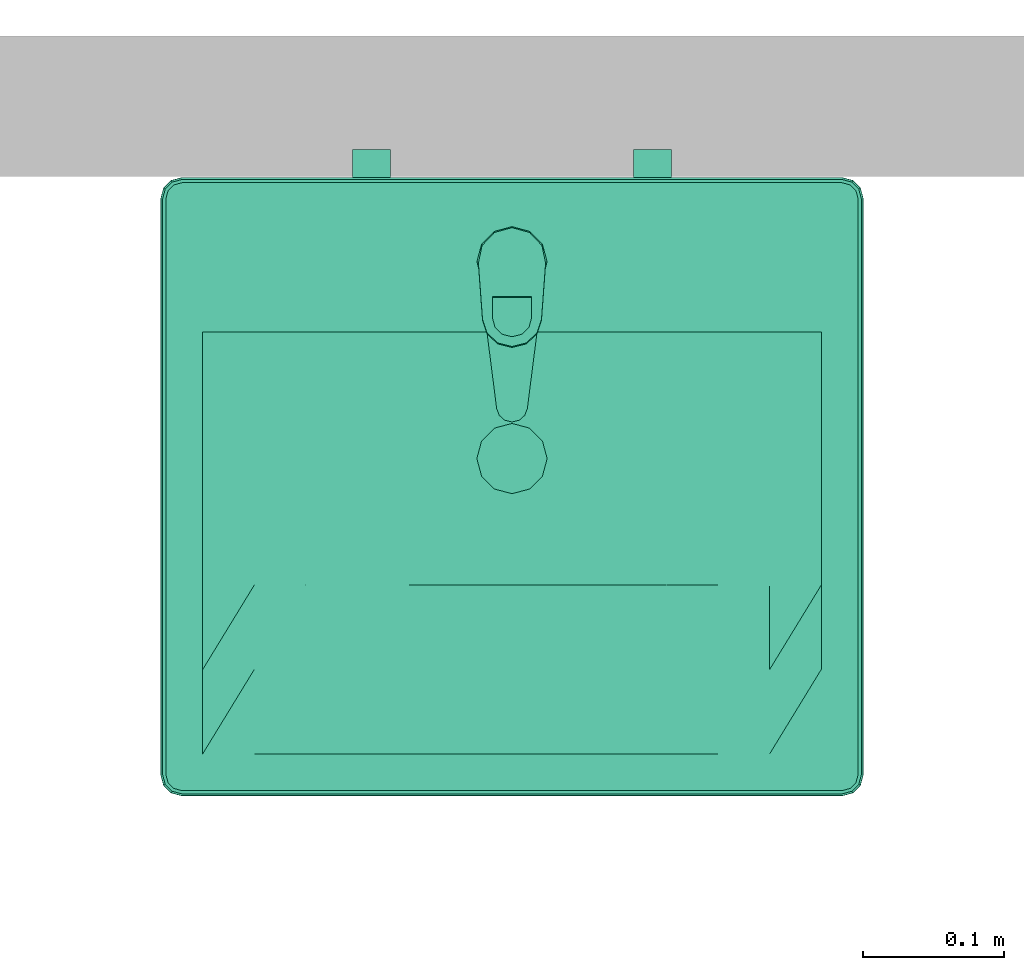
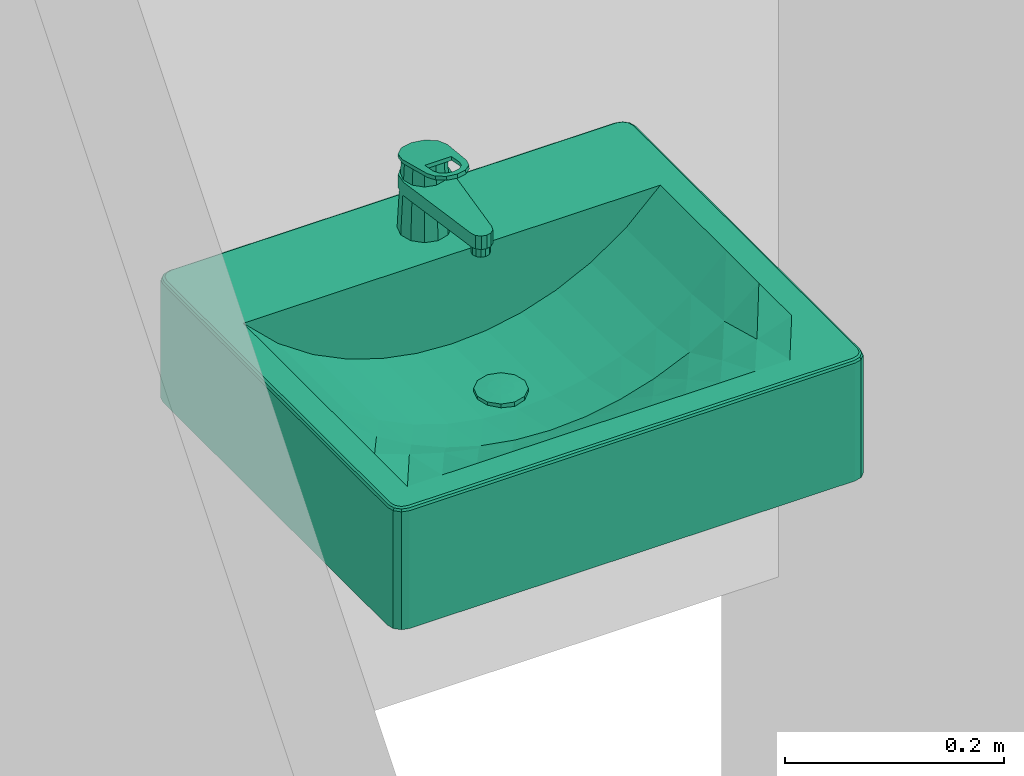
# One storey, part 32 of 34: 1 distribution element.
"""IFC2X3 building model written with IfcOpenShell, lengths in metres."""

from ifc_helpers import new_model, entity, si_unit, converted_unit, derived_unit, money_unit, direction, frame, origin_with_axes, place, context, subcontext, project, spatial, open_shell, faceted_brep, surface_model, type_object, element, save


model = new_model("IFC2X3")

# Units and contexts
model_context = context("Model", 3, precision=1e-05, world=origin_with_axes(), true_north=direction((0.0, 1.0)))
body_context = subcontext(model_context, "Body", "Model", "MODEL_VIEW")
ifc_project = project(units=[si_unit("LENGTHUNIT", "METRE"), si_unit("AREAUNIT", "SQUARE_METRE"), si_unit("VOLUMEUNIT", "CUBIC_METRE"), converted_unit("PLANEANGLEUNIT", "DEGREE", entity("IfcPlaneAngleMeasure", 0.0174532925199), si_unit("PLANEANGLEUNIT", "RADIAN"), dimensions=[0, 0, 0, 0, 0, 0, 0]), money_unit("CHF"), converted_unit("TIMEUNIT", "Year", entity("IfcTimeMeasure", 31556926.0), si_unit("TIMEUNIT", "SECOND"), dimensions=[0, 0, 1, 0, 0, 0, 0]), si_unit("MASSUNIT", "GRAM", prefix="KILO"), si_unit("THERMODYNAMICTEMPERATUREUNIT", "DEGREE_CELSIUS"), si_unit("LUMINOUSINTENSITYUNIT", "LUMEN"), si_unit("ENERGYUNIT", "JOULE", prefix="MEGA"), derived_unit("THERMALCONDUCTANCEUNIT", [(si_unit("POWERUNIT", "WATT"), 1), (si_unit("LENGTHUNIT", "METRE"), -1), (si_unit("THERMODYNAMICTEMPERATUREUNIT", "KELVIN"), -1)]), derived_unit("SPECIFICHEATCAPACITYUNIT", [(si_unit("ENERGYUNIT", "JOULE"), 1), (si_unit("MASSUNIT", "GRAM", prefix="KILO"), -1), (si_unit("THERMODYNAMICTEMPERATUREUNIT", "KELVIN"), -1)]), derived_unit("MASSDENSITYUNIT", [(si_unit("MASSUNIT", "GRAM", prefix="KILO"), 1), (si_unit("VOLUMEUNIT", "CUBIC_METRE"), -1)])], contexts=[model_context])

# Site, building, storey
site_placement = place(None, origin_with_axes())
site = spatial("IfcSite", under=ifc_project, at=site_placement, Name="Site", CompositionType="ELEMENT")
building_placement = place(site_placement, origin_with_axes())
building = spatial("IfcBuilding", under=site, at=building_placement, Name="Bâtiment", CompositionType="ELEMENT")
storey_placement = place(building_placement, origin_with_axes())
storey = spatial("IfcBuildingStorey", under=building, at=storey_placement, Name="RDC", CompositionType="ELEMENT", Elevation=-5.32907e-15)

# Distribution element
distribution_element_type = type_object("IfcDistributionElementType", Name="Lavabo 25")
distribution_element_placement = place(storey_placement, frame((1670.62144837, 186.701906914, 0.47), z_axis=(0.0, 0.0, 1.0), x_axis=(1.0, 0.0, 0.0)))
element("IfcDistributionElement", 1, at=distribution_element_placement, inside=storey, type_object=distribution_element_type, Name="Protection-011", context=body_context, shape_type="SurfaceModel", body=[
    faceted_brep([(0.235, -0.44, 0.865), (-0.235, -0.44, 0.865), (-0.2425, -0.437990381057, 0.865), (-0.247990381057, -0.4325, 0.865), (-0.25, -0.425, 0.865), (-0.25, -0.015, 0.865), (-0.247990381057, -0.0075, 0.865), (-0.2425, -0.00200961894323, 0.865), (-0.235, 0.0, 0.865), (0.235, 0.0, 0.865), (0.2425, -0.00200961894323, 0.865), (0.247990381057, -0.0075, 0.865), (0.25, -0.015, 0.865), (0.25, -0.425, 0.865), (0.247990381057, -0.4325, 0.865), (0.2425, -0.437990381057, 0.865), (-0.22, -0.41, 0.865), (0.22, -0.41, 0.865), (0.22, -0.11, 0.865), (-0.22, -0.11, 0.865), (0.234999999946, -0.44000000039, 0.995), (-0.234999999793, -0.44000000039, 0.995), (-0.242500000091, -0.437990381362, 0.995), (-0.247990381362, -0.432500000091, 0.995), (-0.25000000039, -0.424999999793, 0.995), (-0.25000000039, -0.0149999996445, 0.995), (-0.247990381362, -0.00750000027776, 0.995), (-0.242500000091, -0.00200961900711, 0.995), (-0.234999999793, 0.0, 0.995), (0.234999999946, 0.0, 0.995), (0.242500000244, -0.00200961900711, 0.995), (0.247990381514, -0.00750000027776, 0.995), (0.24999999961, -0.0149999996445, 0.995), (0.24999999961, -0.424999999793, 0.995), (0.247990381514, -0.432500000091, 0.995), (0.242500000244, -0.437990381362, 0.995), (-0.22, -0.41, 0.999999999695), (0.22, -0.41, 0.999999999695), (0.22, -0.11, 0.999999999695), (-0.22, -0.11, 0.999999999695), (0.234977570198, -0.439829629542, 0.996294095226), (-0.234977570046, -0.439829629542, 0.996294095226), (-0.242411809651, -0.437837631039, 0.996294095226), (-0.247837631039, -0.432411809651, 0.996294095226), (-0.249829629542, -0.424977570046, 0.996294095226), (-0.249829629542, -0.0150224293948, 0.996294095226), (-0.247837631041, -0.00758819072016, 0.996294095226), (-0.242411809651, -0.00216236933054, 0.996294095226), (-0.234977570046, -0.000170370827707, 0.996294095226), (0.234977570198, -0.000170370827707, 0.996294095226), (0.242411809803, -0.00216236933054, 0.996294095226), (0.247837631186, -0.00758819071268, 0.996294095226), (0.249829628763, -0.0150224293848, 0.996294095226), (0.249829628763, -0.424977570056, 0.996294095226), (0.247837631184, -0.432411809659, 0.996294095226), (0.242411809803, -0.437837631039, 0.996294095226), (-0.23434173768, -0.00499999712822, 0.999999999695), (-0.239911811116, -0.00649249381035, 0.999999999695), (-0.243507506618, -0.0100881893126, 0.999999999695), (-0.245000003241, -0.0156582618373, 0.999999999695), (-0.245000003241, -0.42434173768, 0.999999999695), (-0.243507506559, -0.429911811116, 0.999999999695), (-0.239911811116, -0.433507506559, 0.999999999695), (-0.23434173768, -0.435000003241, 0.999999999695), (0.234341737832, -0.435000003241, 0.999999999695), (0.239911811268, -0.433507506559, 0.999999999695), (0.243507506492, -0.429911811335, 0.999999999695), (0.245000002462, -0.424341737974, 0.999999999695), (0.245000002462, -0.0156582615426, 0.999999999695), (0.24350750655, -0.010088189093, 0.999999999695), (0.239911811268, -0.00649249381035, 0.999999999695), (0.234341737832, -0.00499999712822, 0.999999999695), (0.234807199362, -0.438535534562, 0.998535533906), (-0.234807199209, -0.438535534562, 0.998535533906), (-0.241741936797, -0.436677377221, 0.998535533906), (-0.246677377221, -0.431741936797, 0.998535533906), (-0.248535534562, -0.424807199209, 0.998535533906), (-0.248535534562, -0.0151928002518, 0.998535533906), (-0.246677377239, -0.0082580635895, 0.998535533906), (-0.241741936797, -0.00332262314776, 0.998535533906), (-0.234807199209, -0.00146446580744, 0.998535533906), (0.234807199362, -0.00146446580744, 0.998535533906), (0.241741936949, -0.00332262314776, 0.998535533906), (0.246677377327, -0.0082580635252, 0.998535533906), (0.248535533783, -0.0151928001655, 0.998535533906), (0.248535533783, -0.424807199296, 0.998535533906), (0.246677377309, -0.431741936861, 0.998535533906), (0.241741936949, -0.436677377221, 0.998535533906), (-0.240581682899, -0.00533224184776, 0.999829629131), (-0.234512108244, -0.00370590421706, 0.999829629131), (-0.244667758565, -0.00941831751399, 0.999829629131), (-0.246294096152, -0.0154878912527, 0.999829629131), (-0.246294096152, -0.424512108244, 0.999829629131), (-0.244667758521, -0.430581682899, 0.999829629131), (-0.240581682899, -0.434667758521, 0.999829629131), (-0.234512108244, -0.436294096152, 0.999829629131), (0.234512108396, -0.436294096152, 0.999829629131), (0.240581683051, -0.434667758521, 0.999829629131), (0.244667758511, -0.430581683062, 0.999829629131), (0.246294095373, -0.424512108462, 0.999829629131), (0.246294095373, -0.0154878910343, 0.999829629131), (0.244667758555, -0.00941831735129, 0.999829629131), (0.240581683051, -0.00533224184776, 0.999829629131), (0.234512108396, -0.00370590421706, 0.999829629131)], [[[0, 1, 2, 3, 4, 5, 6, 7, 8, 9, 10, 11, 12, 13, 14, 15], [16, 17, 18, 19]], [[0, 20, 21, 1]], [[1, 21, 22, 2]], [[2, 22, 23, 3]], [[3, 23, 24, 4]], [[4, 24, 25, 5]], [[5, 25, 26, 6]], [[6, 26, 27, 7]], [[7, 27, 28, 8]], [[8, 28, 29, 9]], [[9, 29, 30, 10]], [[10, 30, 31, 11]], [[11, 31, 32, 12]], [[12, 32, 33, 13]], [[13, 33, 34, 14]], [[14, 34, 35, 15]], [[15, 35, 20, 0]], [[36, 37, 17, 16]], [[37, 38, 18, 17]], [[38, 39, 19, 18]], [[39, 36, 16, 19]], [[20, 40, 41, 21]], [[21, 41, 42, 22]], [[22, 42, 43, 23]], [[23, 43, 44, 24]], [[24, 44, 45, 25]], [[25, 45, 46, 26]], [[26, 46, 47, 27]], [[27, 47, 48, 28]], [[28, 48, 49, 29]], [[29, 49, 50, 30]], [[30, 50, 51, 31]], [[31, 51, 52, 32]], [[32, 52, 53, 33]], [[33, 53, 54, 34]], [[34, 54, 55, 35]], [[35, 55, 40, 20]], [[56, 57, 58, 59, 60, 61, 62, 63, 64, 65, 66, 67, 68, 69, 70, 71], [36, 39, 38, 37]], [[40, 72, 73, 41]], [[41, 73, 74, 42]], [[42, 74, 75, 43]], [[43, 75, 76, 44]], [[44, 76, 77, 45]], [[45, 77, 78, 46]], [[46, 78, 79, 47]], [[47, 79, 80, 48]], [[48, 80, 81, 49]], [[49, 81, 82, 50]], [[50, 82, 83, 51]], [[51, 83, 84, 52]], [[52, 84, 85, 53]], [[53, 85, 86, 54]], [[54, 86, 87, 55]], [[55, 87, 72, 40]], [[88, 57, 56, 89]], [[90, 58, 57, 88]], [[91, 59, 58, 90]], [[92, 60, 59, 91]], [[93, 61, 60, 92]], [[94, 62, 61, 93]], [[95, 63, 62, 94]], [[96, 64, 63, 95]], [[97, 65, 64, 96]], [[98, 66, 65, 97]], [[99, 67, 66, 98]], [[100, 68, 67, 99]], [[101, 69, 68, 100]], [[102, 70, 69, 101]], [[103, 71, 70, 102]], [[89, 56, 71, 103]], [[72, 96, 95, 73]], [[73, 95, 94, 74]], [[74, 94, 93, 75]], [[75, 93, 92, 76]], [[76, 92, 91, 77]], [[77, 91, 90, 78]], [[78, 90, 88, 79]], [[79, 88, 89, 80]], [[80, 89, 103, 81]], [[81, 103, 102, 82]], [[82, 102, 101, 83]], [[83, 101, 100, 84]], [[84, 100, 99, 85]], [[85, 99, 98, 86]], [[86, 98, 97, 87]], [[87, 97, 96, 72]]]),
    faceted_brep([(-0.22, -0.41, 0.865), (-0.22, -0.11, 0.865), (0.22, -0.11, 0.865), (0.22, -0.41, 0.865), (0.0125, -0.221641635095, 0.865), (0.0216506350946, -0.212491, 0.865), (0.025, -0.199991, 0.865), (0.0216506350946, -0.187491, 0.865), (0.0125, -0.178340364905, 0.865), (0.0, -0.174991, 0.865), (-0.0125, -0.178340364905, 0.865), (-0.0216506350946, -0.187491, 0.865), (-0.025, -0.199991, 0.865), (-0.0216506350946, -0.212491, 0.865), (-0.0125, -0.221641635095, 0.865), (0.0, -0.224991, 0.865), (-0.22, -0.29, 1.0), (-0.22, -0.23, 1.0), (-0.22, -0.17, 1.0), (-0.22, -0.11, 1.0), (-0.22, -0.41, 1.0), (-0.22, -0.35, 1.0), (0.11, -0.11, 0.921511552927), (0.146666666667, -0.11, 0.939506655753), (0.183333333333, -0.11, 0.964727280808), (0.22, -0.11, 1.0), (-0.183333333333, -0.11, 0.964727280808), (-0.146666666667, -0.11, 0.939506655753), (-0.11, -0.11, 0.921511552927), (-0.0733333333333, -0.11, 0.909358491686), (-0.0366666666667, -0.11, 0.90231127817), (0.0, -0.11, 0.9), (0.0366666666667, -0.11, 0.90231127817), (0.0733333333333, -0.11, 0.909358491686), (0.22, -0.23, 1.0), (0.22, -0.29, 1.0), (0.22, -0.35, 1.0), (0.22, -0.41, 1.0), (0.22, -0.17, 1.0), (-0.11, -0.41, 1.0), (-0.146666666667, -0.41, 1.0), (-0.183333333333, -0.41, 1.0), (0.183333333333, -0.41, 1.0), (0.146666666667, -0.41, 1.0), (0.11, -0.41, 1.0), (0.0733333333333, -0.41, 1.0), (0.0366666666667, -0.41, 1.0), (0.0, -0.41, 1.0), (-0.0366666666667, -0.41, 1.0), (-0.0733333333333, -0.41, 1.0), (0.0125, -0.221641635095, 0.90078793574), (0.0216506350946, -0.212491, 0.901364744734), (0.025, -0.199991, 0.901575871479), (0.0216506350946, -0.187491, 0.901364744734), (0.0125, -0.178340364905, 0.90078793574), (0.0, -0.174991, 0.9), (-0.0125, -0.178340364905, 0.90078793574), (-0.0216506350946, -0.187491, 0.901364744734), (-0.025, -0.199991, 0.901575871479), (-0.0216506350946, -0.212491, 0.901364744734), (-0.0125, -0.221641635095, 0.90078793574), (0.0, -0.224991, 0.9), (-0.183333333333, -0.23, 0.964727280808), (-0.183333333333, -0.17, 0.964727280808), (-0.183333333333, -0.35, 0.986499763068), (-0.183333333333, -0.29, 0.970289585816), (0.146666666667, -0.17, 0.939506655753), (0.11, -0.17, 0.921511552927), (0.183333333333, -0.17, 0.964727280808), (-0.146666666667, -0.17, 0.939506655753), (-0.11, -0.17, 0.921511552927), (-0.0733333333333, -0.17, 0.909358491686), (-0.0366666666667, -0.17, 0.90231127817), (0.0, -0.17, 0.9), (0.0366666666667, -0.17, 0.90231127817), (0.0733333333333, -0.17, 0.909358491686), (0.183333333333, -0.29, 0.970289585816), (0.183333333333, -0.35, 0.986499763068), (0.183333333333, -0.23, 0.964727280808), (-0.11, -0.35, 0.967430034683), (-0.146666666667, -0.35, 0.975693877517), (0.146666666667, -0.35, 0.975693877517), (0.11, -0.35, 0.967430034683), (0.0733333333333, -0.35, 0.961599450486), (0.0366666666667, -0.35, 0.958129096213), (0.0, -0.35, 0.956976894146), (-0.0366666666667, -0.35, 0.958129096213), (-0.0733333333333, -0.35, 0.961599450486), (0.0, -0.23, 0.9), (0.0366666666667, -0.23, 0.90231127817), (-0.0366666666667, -0.23, 0.90231127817), (-0.146666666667, -0.23, 0.939506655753), (0.146666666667, -0.23, 0.939506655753), (0.11, -0.23, 0.921511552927), (-0.11, -0.23, 0.921511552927), (-0.0733333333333, -0.23, 0.909358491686), (0.0733333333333, -0.23, 0.909358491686), (0.0, -0.29, 0.912828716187), (-0.0366666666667, -0.29, 0.914928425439), (-0.146666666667, -0.29, 0.948269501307), (0.11, -0.29, 0.932251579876), (0.146666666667, -0.29, 0.948269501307), (-0.11, -0.29, 0.932251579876), (-0.0733333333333, -0.29, 0.921312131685), (0.0366666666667, -0.29, 0.914928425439), (0.0733333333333, -0.29, 0.921312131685)], [[[0, 1, 2, 3], [4, 5, 6, 7, 8, 9, 10, 11, 12, 13, 14, 15]], [[16, 17, 18, 19, 1, 0, 20, 21]], [[22, 23, 24, 25, 2, 1, 19, 26, 27, 28, 29, 30, 31, 32, 33]], [[34, 35, 36, 37, 3, 2, 25, 38]], [[39, 40, 41, 20, 0, 3, 37, 42, 43, 44, 45, 46, 47, 48, 49]], [[50, 51, 5, 4]], [[51, 52, 6, 5]], [[52, 53, 7, 6]], [[53, 54, 8, 7]], [[54, 55, 9, 8]], [[55, 56, 10, 9]], [[56, 57, 11, 10]], [[57, 58, 12, 11]], [[58, 59, 13, 12]], [[59, 60, 14, 13]], [[60, 61, 15, 14]], [[61, 50, 4, 15]], [[16, 62, 17]], [[62, 63, 18, 17]], [[63, 26, 19, 18]], [[20, 64, 21]], [[21, 65, 16]], [[66, 23, 22, 67]], [[68, 24, 23, 66]], [[38, 25, 24, 68]], [[69, 27, 26, 63]], [[70, 28, 27, 69]], [[71, 29, 28, 70]], [[72, 30, 29, 71]], [[73, 31, 30, 72]], [[74, 32, 31, 73]], [[75, 33, 32, 74]], [[67, 22, 33, 75]], [[76, 35, 34]], [[77, 36, 35]], [[42, 37, 36]], [[34, 38, 68, 78]], [[40, 39, 79]], [[41, 40, 80]], [[20, 41, 64]], [[43, 42, 77]], [[44, 43, 81]], [[45, 44, 82]], [[46, 45, 83]], [[47, 46, 84]], [[48, 47, 85]], [[49, 48, 86]], [[39, 49, 87]], [[54, 53, 52, 51, 50, 61, 88, 89, 74, 73, 55]], [[56, 55, 73, 72, 90, 88, 61, 60, 59, 58, 57]], [[16, 65, 62]], [[91, 69, 63, 62]], [[21, 64, 65]], [[92, 66, 67, 93]], [[78, 68, 66, 92]], [[94, 70, 69, 91]], [[95, 71, 70, 94]], [[90, 72, 71, 95]], [[96, 75, 74, 89]], [[93, 67, 75, 96]], [[77, 35, 76]], [[76, 34, 78]], [[42, 36, 77]], [[39, 87, 79]], [[40, 79, 80]], [[41, 80, 64]], [[43, 77, 81]], [[44, 81, 82]], [[45, 82, 83]], [[46, 83, 84]], [[47, 84, 85]], [[48, 85, 86]], [[49, 86, 87]], [[97, 89, 88]], [[98, 88, 90]], [[65, 91, 62]], [[64, 99, 65]], [[100, 92, 93]], [[101, 78, 92]], [[99, 94, 91]], [[102, 95, 94]], [[103, 90, 95]], [[104, 96, 89]], [[105, 93, 96]], [[81, 77, 76]], [[101, 76, 78]], [[79, 87, 103]], [[80, 79, 102]], [[64, 80, 99]], [[82, 81, 101]], [[83, 82, 100]], [[84, 83, 105]], [[85, 84, 104]], [[86, 85, 97]], [[87, 86, 98]], [[97, 104, 89]], [[98, 97, 88]], [[103, 98, 90]], [[65, 99, 91]], [[100, 101, 92]], [[105, 100, 93]], [[99, 102, 94]], [[102, 103, 95]], [[104, 105, 96]], [[81, 76, 101]], [[87, 98, 103]], [[79, 103, 102]], [[80, 102, 99]], [[82, 101, 100]], [[83, 100, 105]], [[84, 105, 104]], [[85, 104, 97]], [[86, 97, 98]]]),
    faceted_brep([(0.0216506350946, -0.212491, 0.9), (0.0125, -0.221641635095, 0.9), (0.0, -0.224991, 0.9), (-0.0125, -0.221641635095, 0.9), (-0.0216506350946, -0.212491, 0.9), (-0.025, -0.199991, 0.9), (-0.0216506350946, -0.187491, 0.9), (-0.0125, -0.178340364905, 0.9), (0.0, -0.174991, 0.9), (0.0125, -0.178340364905, 0.9), (0.0216506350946, -0.187491, 0.9), (0.025, -0.199991, 0.9), (0.0216506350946, -0.212491, 0.905), (0.0125, -0.221641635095, 0.905), (0.0, -0.224991, 0.905), (-0.0125, -0.221641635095, 0.905), (-0.0216506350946, -0.212491, 0.905), (-0.025, -0.199991, 0.905), (-0.0216506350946, -0.187491, 0.905), (-0.0125, -0.178340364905, 0.905), (0.0, -0.174991, 0.905), (0.0125, -0.178340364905, 0.905), (0.0216506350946, -0.187491, 0.905), (0.025, -0.199991, 0.905)], [[[0, 1, 2, 3, 4, 5, 6, 7, 8, 9, 10, 11]], [[1, 0, 12, 13]], [[2, 1, 13, 14]], [[3, 2, 14, 15]], [[4, 3, 15, 16]], [[5, 4, 16, 17]], [[6, 5, 17, 18]], [[7, 6, 18, 19]], [[8, 7, 19, 20]], [[9, 8, 20, 21]], [[10, 9, 21, 22]], [[11, 10, 22, 23]], [[0, 11, 23, 12]], [[12, 23, 22, 21, 20, 19, 18, 17, 16, 15, 14, 13]]]),
    surface_model("IfcShellBasedSurfaceModel", [(0.0, -0.199991, 0.907), (0.0, -0.187369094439, 0.90649757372), (-0.00631095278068, -0.18906010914, 0.90649757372), (0.00631095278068, -0.18906010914, 0.90649757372), (0.0, -0.174991, 0.905), (-0.0125, -0.178340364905, 0.905), (-0.0109308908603, -0.193680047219, 0.90649757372), (0.0109308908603, -0.193680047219, 0.90649757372), (0.0125, -0.178340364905, 0.905), (-0.0216506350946, -0.187491, 0.905), (-0.0126219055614, -0.199991, 0.90649757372), (0.0126219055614, -0.199991, 0.90649757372), (0.0216506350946, -0.187491, 0.905), (-0.025, -0.199991, 0.905), (-0.0109308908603, -0.206301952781, 0.90649757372), (0.0109308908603, -0.206301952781, 0.90649757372), (0.025, -0.199991, 0.905), (-0.0216506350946, -0.212491, 0.905), (-0.00631095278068, -0.21092189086, 0.90649757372), (0.00631095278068, -0.21092189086, 0.90649757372), (0.0216506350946, -0.212491, 0.905), (-0.0125, -0.221641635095, 0.905), (0.0, -0.212612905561, 0.90649757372), (0.0125, -0.221641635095, 0.905), (0.0, -0.224991, 0.905)], [open_shell([[[0, 1, 2]], [[0, 3, 1]], [[2, 1, 4, 5]], [[0, 2, 6]], [[0, 7, 3]], [[1, 3, 8, 4]], [[6, 2, 5, 9]], [[0, 6, 10]], [[0, 11, 7]], [[3, 7, 12, 8]], [[10, 6, 9, 13]], [[0, 10, 14]], [[0, 15, 11]], [[7, 11, 16, 12]], [[14, 10, 13, 17]], [[0, 14, 18]], [[0, 19, 15]], [[11, 15, 20, 16]], [[18, 14, 17, 21]], [[0, 18, 22]], [[0, 22, 19]], [[15, 19, 23, 20]], [[22, 18, 21, 24]], [[19, 22, 24, 23]]])]),
    faceted_brep([(0.0125, -0.0383493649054, 1.0), (0.0, -0.035, 1.0), (0.0, -0.0387980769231, 1.07596153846), (0.0105873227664, -0.0416622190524, 1.07650708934), (0.0216506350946, -0.0475, 1.0), (0.025, -0.06, 1.0), (0.0216506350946, -0.0725, 1.0), (0.0125, -0.0816506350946, 1.0), (0.0, -0.085, 1.0), (-0.0125, -0.0816506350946, 1.0), (-0.0216506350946, -0.0725, 1.0), (-0.025, -0.06, 1.0), (-0.0216506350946, -0.0475, 1.0), (-0.0125, -0.0383493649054, 1.0), (-0.0105873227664, -0.0416622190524, 1.07650708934), (-0.0182735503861, -0.0494497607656, 1.07799043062), (-0.021, -0.06, 1.08), (-0.0181003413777, -0.0704502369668, 1.08199052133), (-0.0104141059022, -0.078037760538, 1.08343576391), (0.0, -0.0808018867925, 1.08396226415), (0.0104141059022, -0.078037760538, 1.08343576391), (0.0181003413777, -0.0704502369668, 1.08199052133), (0.021, -0.06, 1.08), (0.0182735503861, -0.0494497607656, 1.07799043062)], [[[0, 1, 2, 3]], [[0, 4, 5, 6, 7, 8, 9, 10, 11, 12, 13, 1]], [[1, 13, 14, 2]], [[3, 2, 14, 15, 16, 17, 18, 19, 20, 21, 22, 23]], [[4, 0, 3, 23]], [[5, 4, 23, 22]], [[6, 5, 22, 21]], [[7, 6, 21, 20]], [[8, 7, 20, 19]], [[9, 8, 19, 18]], [[10, 9, 18, 17]], [[11, 10, 17, 16]], [[12, 11, 16, 15]], [[13, 12, 15, 14]]]),
    faceted_brep([(0.009, -0.163, 1.035), (0.00779422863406, -0.1585, 1.035), (0.00779422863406, -0.1585, 1.045), (0.009, -0.163, 1.045), (0.00779422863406, -0.1675, 1.035), (0.0045, -0.170794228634, 1.035), (0.0, -0.172, 1.035), (-0.0045, -0.170794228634, 1.035), (-0.00779422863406, -0.1675, 1.035), (-0.009, -0.163, 1.035), (-0.00779422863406, -0.1585, 1.035), (-0.0045, -0.155205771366, 1.035), (0.0, -0.154, 1.035), (0.0045, -0.155205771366, 1.035), (0.0045, -0.155205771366, 1.045), (0.0, -0.154, 1.045), (-0.0045, -0.155205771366, 1.045), (-0.00779422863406, -0.1585, 1.045), (-0.009, -0.163, 1.045), (-0.00779422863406, -0.1675, 1.045), (-0.0045, -0.170794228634, 1.045), (0.0, -0.172, 1.045), (0.0045, -0.170794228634, 1.045), (0.00779422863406, -0.1675, 1.045)], [[[0, 1, 2, 3]], [[0, 4, 5, 6, 7, 8, 9, 10, 11, 12, 13, 1]], [[1, 13, 14, 2]], [[3, 2, 14, 15, 16, 17, 18, 19, 20, 21, 22, 23]], [[4, 0, 3, 23]], [[5, 4, 23, 22]], [[6, 5, 22, 21]], [[7, 6, 21, 20]], [[8, 7, 20, 19]], [[9, 8, 19, 18]], [[10, 9, 18, 17]], [[11, 10, 17, 16]], [[12, 11, 16, 15]], [[13, 12, 15, 14]]]),
    faceted_brep([(-0.0128717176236, -0.0397436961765, 1.06), (-0.021727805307, -0.0498067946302, 1.06), (-0.0238054, -0.0630499, 1.06), (-0.010911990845, -0.164388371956, 1.06), (-0.00902887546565, -0.169283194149, 1.06), (-0.00509332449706, -0.172749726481, 1.06), (3.62679860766e-08, -0.17399996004, 1.06), (0.00509338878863, -0.172749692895, 1.06), (0.00902891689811, -0.169283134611, 1.06), (0.010912, -0.1643883, 1.06), (0.0238053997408, -0.0630499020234, 1.06), (0.0217278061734, -0.049806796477, 1.06), (0.0128717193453, -0.0397436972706, 1.06), (1.01998896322e-09, -0.036000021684, 1.06), (0.011, -0.0409474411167, 1.06), (0.0190525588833, -0.049, 1.06), (0.022, -0.06, 1.06), (0.0190525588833, -0.071, 1.06), (0.011, -0.0790525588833, 1.06), (0.0, -0.082, 1.06), (-0.011, -0.0790525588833, 1.06), (-0.0190525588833, -0.071, 1.06), (-0.022, -0.06, 1.06), (-0.0190525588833, -0.049, 1.06), (-0.011, -0.0409474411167, 1.06), (0.0, -0.038, 1.06), (-0.021727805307, -0.0498067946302, 1.045), (-0.0128717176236, -0.0397436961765, 1.045), (-0.0238054, -0.0630499, 1.045), (-0.010911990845, -0.164388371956, 1.045), (-0.00902887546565, -0.169283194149, 1.045), (-0.00509332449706, -0.172749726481, 1.045), (3.62679860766e-08, -0.17399996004, 1.045), (0.00509338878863, -0.172749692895, 1.045), (0.00902891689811, -0.169283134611, 1.045), (0.010912, -0.1643883, 1.045), (0.0238053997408, -0.0630499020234, 1.045), (0.0217278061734, -0.049806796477, 1.045), (0.0128717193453, -0.0397436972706, 1.045), (1.01998896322e-09, -0.036000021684, 1.045), (0.011375, -0.0402979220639, 1.045), (0.0197020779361, -0.048625, 1.045), (0.02275, -0.06, 1.045), (0.0197020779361, -0.071375, 1.045), (0.011375, -0.0797020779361, 1.045), (0.0, -0.08275, 1.045), (-0.011375, -0.0797020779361, 1.045), (-0.0197020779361, -0.071375, 1.045), (-0.02275, -0.06, 1.045), (-0.0197020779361, -0.048625, 1.045), (-0.011375, -0.0402979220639, 1.045), (0.0, -0.03725, 1.045)], [[[0, 1, 2, 3, 4, 5, 6, 7, 8, 9, 10, 11, 12, 13], [14, 15, 16, 17, 18, 19, 20, 21, 22, 23, 24, 25]], [[26, 1, 0, 27]], [[28, 2, 1, 26]], [[29, 3, 2, 28]], [[30, 4, 3, 29]], [[31, 5, 4, 30]], [[32, 6, 5, 31]], [[33, 7, 6, 32]], [[34, 8, 7, 33]], [[35, 9, 8, 34]], [[36, 10, 9, 35]], [[37, 11, 10, 36]], [[38, 12, 11, 37]], [[39, 13, 12, 38]], [[27, 0, 13, 39]], [[40, 41, 15, 14]], [[41, 42, 16, 15]], [[42, 43, 17, 16]], [[43, 44, 18, 17]], [[44, 45, 19, 18]], [[20, 19, 45, 46]], [[21, 20, 46, 47]], [[22, 21, 47, 48]], [[23, 22, 48, 49]], [[24, 23, 49, 50]], [[50, 51, 25, 24]], [[51, 40, 14, 25]], [[32, 31, 30, 29, 28, 26, 27, 39, 38, 37, 36, 35, 34, 33], [44, 43, 42, 41, 40, 51, 50, 49, 48, 47, 46, 45]]]),
    faceted_brep([(0.023893, -0.0616925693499, 1.08032239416), (0.0212964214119, -0.049225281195, 1.07794767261), (0.0212964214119, -0.0484768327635, 1.08187702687), (0.023893, -0.0609441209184, 1.08425174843), (0.0209459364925, -0.101836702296, 1.08796889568), (0.0176631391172, -0.111514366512, 1.08981226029), (0.0100614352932, -0.118463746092, 1.09113595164), (-4.42652908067e-07, -0.12098561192, 1.09161630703), (-0.0100622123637, -0.118463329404, 1.09113587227), (-0.0176636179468, -0.111513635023, 1.08981212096), (-0.020946, -0.101835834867, 1.08796873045), (-0.023893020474, -0.0616922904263, 1.08032234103), (-0.0212962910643, -0.0492250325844, 1.07794762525), (-0.0124716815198, -0.0399088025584, 1.07617310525), (1.42337785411e-07, -0.0364680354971, 1.07551772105), (0.0124719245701, -0.0399089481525, 1.07617313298), (0.014, -0.085540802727, 1.08486491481), (-0.014, -0.085540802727, 1.08486491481), (-0.014, -0.100356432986, 1.08768693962), (-0.012124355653, -0.107232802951, 1.08899672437), (-0.007, -0.112266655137, 1.08995555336), (0.0, -0.114109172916, 1.09030650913), (0.007, -0.112266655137, 1.08995555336), (0.012124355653, -0.107232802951, 1.08899672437), (0.014, -0.100356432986, 1.08768693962), (0.0124719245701, -0.0391604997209, 1.08010248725), (1.42337785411e-07, -0.0357195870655, 1.07944707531), (-0.0124716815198, -0.0391603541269, 1.08010245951), (-0.0212962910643, -0.0484765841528, 1.08187697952), (-0.023893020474, -0.0609438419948, 1.0842516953), (-0.020946, -0.101087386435, 1.09189808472), (-0.0176636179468, -0.110765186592, 1.09374147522), (-0.0100622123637, -0.117714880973, 1.09506522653), (-4.42652908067e-07, -0.120237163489, 1.0955456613), (0.0100614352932, -0.11771529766, 1.0950653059), (0.0176631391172, -0.11076591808, 1.09374161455), (0.0209459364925, -0.101088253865, 1.09189824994), (0.014, -0.0847923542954, 1.08879426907), (0.014, -0.0996079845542, 1.09161629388), (0.012124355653, -0.106484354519, 1.09292607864), (0.007, -0.111518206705, 1.09388490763), (0.0, -0.113360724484, 1.09423586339), (-0.007, -0.111518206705, 1.09388490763), (-0.012124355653, -0.106484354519, 1.09292607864), (-0.014, -0.0996079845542, 1.09161629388), (-0.014, -0.0847923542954, 1.08879426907)], [[[0, 1, 2, 3]], [[0, 4, 5, 6, 7, 8, 9, 10, 11, 12, 13, 14, 15, 1], [16, 17, 18, 19, 20, 21, 22, 23, 24]], [[1, 15, 25, 2]], [[3, 2, 25, 26, 27, 28, 29, 30, 31, 32, 33, 34, 35, 36], [37, 38, 39, 40, 41, 42, 43, 44, 45]], [[4, 0, 3, 36]], [[5, 4, 36, 35]], [[6, 5, 35, 34]], [[7, 6, 34, 33]], [[8, 7, 33, 32]], [[9, 8, 32, 31]], [[10, 9, 31, 30]], [[11, 10, 30, 29]], [[12, 11, 29, 28]], [[13, 12, 28, 27]], [[14, 13, 27, 26]], [[15, 14, 26, 25]], [[17, 16, 37, 45]], [[18, 17, 45, 44]], [[19, 18, 44, 43]], [[20, 19, 43, 42]], [[21, 20, 42, 41]], [[22, 21, 41, 40]], [[23, 22, 40, 39]], [[24, 23, 39, 38]], [[16, 24, 38, 37]]]),
    surface_model("IfcShellBasedSurfaceModel", [(-0.1, 0.0, 0.9445), (-0.103494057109, 0.0, 0.944960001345), (-0.103494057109, 0.02, 0.944960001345), (-0.1, 0.02, 0.9445), (-0.10675, 0.0, 0.946308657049), (-0.10675, 0.02, 0.946308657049), (-0.0965059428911, 0.0, 0.944960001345), (-0.0965059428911, 0.02, 0.944960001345), (-0.109545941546, 0.0, 0.948454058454), (-0.109545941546, 0.02, 0.948454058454), (-0.09325, 0.0, 0.946308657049), (-0.09325, 0.02, 0.946308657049), (-0.111691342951, 0.0, 0.95125), (-0.111691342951, 0.02, 0.95125), (-0.090454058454, 0.0, 0.948454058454), (-0.090454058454, 0.02, 0.948454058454), (-0.113039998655, 0.0, 0.954505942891), (-0.113039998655, 0.02, 0.954505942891), (-0.0883086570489, 0.0, 0.95125), (-0.0883086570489, 0.02, 0.95125), (-0.1135, 0.0, 0.958), (-0.1135, 0.02, 0.958), (-0.0869600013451, 0.0, 0.954505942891), (-0.0869600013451, 0.02, 0.954505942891), (-0.113039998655, 0.0, 0.961494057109), (-0.113039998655, 0.02, 0.961494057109), (-0.0865, 0.0, 0.958), (-0.0865, 0.02, 0.958), (-0.111691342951, 0.0, 0.96475), (-0.111691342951, 0.02, 0.96475), (-0.0869600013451, 0.0, 0.961494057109), (-0.0869600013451, 0.02, 0.961494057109), (-0.109545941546, 0.0, 0.967545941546), (-0.109545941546, 0.02, 0.967545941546), (-0.0883086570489, 0.0, 0.96475), (-0.0883086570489, 0.02, 0.96475), (-0.10675, 0.0, 0.969691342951), (-0.10675, 0.02, 0.969691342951), (-0.090454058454, 0.0, 0.967545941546), (-0.090454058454, 0.02, 0.967545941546), (-0.103494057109, 0.0, 0.971039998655), (-0.103494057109, 0.02, 0.971039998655), (-0.09325, 0.0, 0.969691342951), (-0.09325, 0.02, 0.969691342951), (-0.1, 0.0, 0.9715), (-0.1, 0.02, 0.9715), (-0.0965059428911, 0.0, 0.971039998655), (-0.0965059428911, 0.02, 0.971039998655)], [open_shell([[[0, 1, 2, 3]], [[1, 4, 5, 2]], [[6, 0, 3, 7]], [[4, 8, 9, 5]], [[10, 6, 7, 11]], [[8, 12, 13, 9]], [[14, 10, 11, 15]], [[12, 16, 17, 13]], [[18, 14, 15, 19]], [[16, 20, 21, 17]], [[22, 18, 19, 23]], [[20, 24, 25, 21]], [[26, 22, 23, 27]], [[24, 28, 29, 25]], [[30, 26, 27, 31]], [[28, 32, 33, 29]], [[34, 30, 31, 35]], [[32, 36, 37, 33]], [[38, 34, 35, 39]], [[36, 40, 41, 37]], [[42, 38, 39, 43]], [[40, 44, 45, 41]], [[46, 42, 43, 47]], [[44, 46, 47, 45]]])]),
    surface_model("IfcShellBasedSurfaceModel", [(0.1, 0.0, 0.9445), (0.0965059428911, 0.0, 0.944960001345), (0.0965059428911, 0.02, 0.944960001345), (0.1, 0.02, 0.9445), (0.09325, 0.0, 0.946308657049), (0.09325, 0.02, 0.946308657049), (0.103494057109, 0.0, 0.944960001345), (0.103494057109, 0.02, 0.944960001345), (0.090454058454, 0.0, 0.948454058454), (0.090454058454, 0.02, 0.948454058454), (0.10675, 0.0, 0.946308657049), (0.10675, 0.02, 0.946308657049), (0.0883086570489, 0.0, 0.95125), (0.0883086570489, 0.02, 0.95125), (0.109545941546, 0.0, 0.948454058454), (0.109545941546, 0.02, 0.948454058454), (0.0869600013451, 0.0, 0.954505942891), (0.0869600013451, 0.02, 0.954505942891), (0.111691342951, 0.0, 0.95125), (0.111691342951, 0.02, 0.95125), (0.0865, 0.0, 0.958), (0.0865, 0.02, 0.958), (0.113039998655, 0.0, 0.954505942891), (0.113039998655, 0.02, 0.954505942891), (0.0869600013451, 0.0, 0.961494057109), (0.0869600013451, 0.02, 0.961494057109), (0.1135, 0.0, 0.958), (0.1135, 0.02, 0.958), (0.0883086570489, 0.0, 0.96475), (0.0883086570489, 0.02, 0.96475), (0.113039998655, 0.0, 0.961494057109), (0.113039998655, 0.02, 0.961494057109), (0.090454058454, 0.0, 0.967545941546), (0.090454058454, 0.02, 0.967545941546), (0.111691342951, 0.0, 0.96475), (0.111691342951, 0.02, 0.96475), (0.09325, 0.0, 0.969691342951), (0.09325, 0.02, 0.969691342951), (0.109545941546, 0.0, 0.967545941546), (0.109545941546, 0.02, 0.967545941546), (0.0965059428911, 0.0, 0.971039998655), (0.0965059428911, 0.02, 0.971039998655), (0.10675, 0.0, 0.969691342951), (0.10675, 0.02, 0.969691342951), (0.1, 0.0, 0.9715), (0.1, 0.02, 0.9715), (0.103494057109, 0.0, 0.971039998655), (0.103494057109, 0.02, 0.971039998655)], [open_shell([[[0, 1, 2, 3]], [[1, 4, 5, 2]], [[6, 0, 3, 7]], [[4, 8, 9, 5]], [[10, 6, 7, 11]], [[8, 12, 13, 9]], [[14, 10, 11, 15]], [[12, 16, 17, 13]], [[18, 14, 15, 19]], [[16, 20, 21, 17]], [[22, 18, 19, 23]], [[20, 24, 25, 21]], [[26, 22, 23, 27]], [[24, 28, 29, 25]], [[30, 26, 27, 31]], [[28, 32, 33, 29]], [[34, 30, 31, 35]], [[32, 36, 37, 33]], [[38, 34, 35, 39]], [[36, 40, 41, 37]], [[42, 38, 39, 43]], [[40, 44, 45, 41]], [[46, 42, 43, 47]], [[44, 46, 47, 45]]])]),
    surface_model("IfcShellBasedSurfaceModel", [(0.0, -0.220991, 0.865), (-0.00543519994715, -0.220275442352, 0.865), (-0.00543519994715, -0.220275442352, 0.845), (0.0, -0.220991, 0.845), (-0.0105, -0.218177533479, 0.865), (-0.0105, -0.218177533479, 0.845), (0.00543519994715, -0.220275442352, 0.865), (0.00543519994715, -0.220275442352, 0.845), (-0.0148492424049, -0.214840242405, 0.865), (-0.0148492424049, -0.214840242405, 0.845), (0.0105, -0.218177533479, 0.865), (0.0105, -0.218177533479, 0.845), (-0.0181865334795, -0.210491, 0.865), (-0.0181865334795, -0.210491, 0.845), (0.0148492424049, -0.214840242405, 0.865), (0.0148492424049, -0.214840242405, 0.845), (-0.0202844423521, -0.205426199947, 0.865), (-0.0202844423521, -0.205426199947, 0.845), (0.0181865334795, -0.210491, 0.865), (0.0181865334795, -0.210491, 0.845), (-0.021, -0.199991, 0.865), (-0.021, -0.199991, 0.845), (0.0202844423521, -0.205426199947, 0.865), (0.0202844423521, -0.205426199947, 0.845), (-0.0202844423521, -0.194555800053, 0.865), (-0.0202844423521, -0.194555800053, 0.845), (0.021, -0.199991, 0.865), (0.021, -0.199991, 0.845), (-0.0181865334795, -0.189491, 0.865), (-0.0181865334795, -0.189491, 0.845), (0.0202844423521, -0.194555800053, 0.865), (0.0202844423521, -0.194555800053, 0.845), (-0.0148492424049, -0.185141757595, 0.865), (-0.0148492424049, -0.185141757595, 0.845), (0.0181865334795, -0.189491, 0.865), (0.0181865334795, -0.189491, 0.845), (-0.0105, -0.181804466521, 0.865), (-0.0105, -0.181804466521, 0.845), (0.0148492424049, -0.185141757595, 0.865), (0.0148492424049, -0.185141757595, 0.845), (-0.00543519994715, -0.179706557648, 0.865), (-0.00543519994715, -0.179706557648, 0.845), (0.0105, -0.181804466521, 0.865), (0.0105, -0.181804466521, 0.845), (0.0, -0.178991, 0.865), (0.0, -0.178991, 0.845), (0.00543519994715, -0.179706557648, 0.865), (0.00543519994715, -0.179706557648, 0.845)], [open_shell([[[0, 1, 2, 3]], [[1, 4, 5, 2]], [[6, 0, 3, 7]], [[4, 8, 9, 5]], [[10, 6, 7, 11]], [[8, 12, 13, 9]], [[14, 10, 11, 15]], [[12, 16, 17, 13]], [[18, 14, 15, 19]], [[16, 20, 21, 17]], [[22, 18, 19, 23]], [[20, 24, 25, 21]], [[26, 22, 23, 27]], [[24, 28, 29, 25]], [[30, 26, 27, 31]], [[28, 32, 33, 29]], [[34, 30, 31, 35]], [[32, 36, 37, 33]], [[38, 34, 35, 39]], [[36, 40, 41, 37]], [[42, 38, 39, 43]], [[40, 44, 45, 41]], [[46, 42, 43, 47]], [[44, 46, 47, 45]]])]),
])

save(model, "model.ifc")
